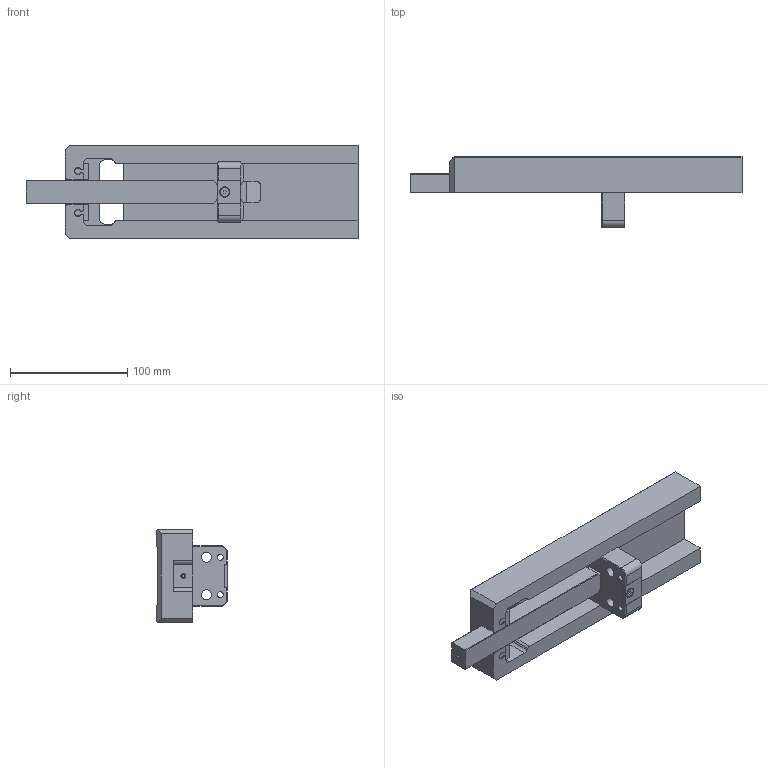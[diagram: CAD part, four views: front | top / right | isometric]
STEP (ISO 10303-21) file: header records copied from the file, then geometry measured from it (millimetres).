
FILE_DESCRIPTION (( 'STEP AP203' ), '1' );
FILE_NAME ('SA-110-250-00.step', '2015-06-16T06:00:58', ( '' ), ( '' ), 'SwSTEP 2.0', 'SolidWorks 2015', '' );
FILE_SCHEMA (( 'CONFIG_CONTROL_DESIGN' ));
Length unit declared in the file: millimetre
Products named in the file (2): SA-110-250-00
Bounding box: 283.64 x 60.6 x 80 mm (x, y, z)
Surface area: 93152.6 mm2 (no closed solid volume)
Topology: 0 solids, 9 shells, 134 faces, 481 edges, 346 vertices
Faces by surface type: plane 95, cylinder 31, cone 8
Full cylindrical faces by diameter (mm): 1.3 x2, 2.5 x1, 5 x2, 5.5 x2, 7.64 x1, 8.5 x2
Entity records: 5188 total; most frequent: CARTESIAN_POINT 981, DIRECTION 821, ORIENTED_EDGE 770, EDGE_CURVE 465, LINE 357, VECTOR 357, VERTEX_POINT 344, AXIS2_PLACEMENT_3D 232
